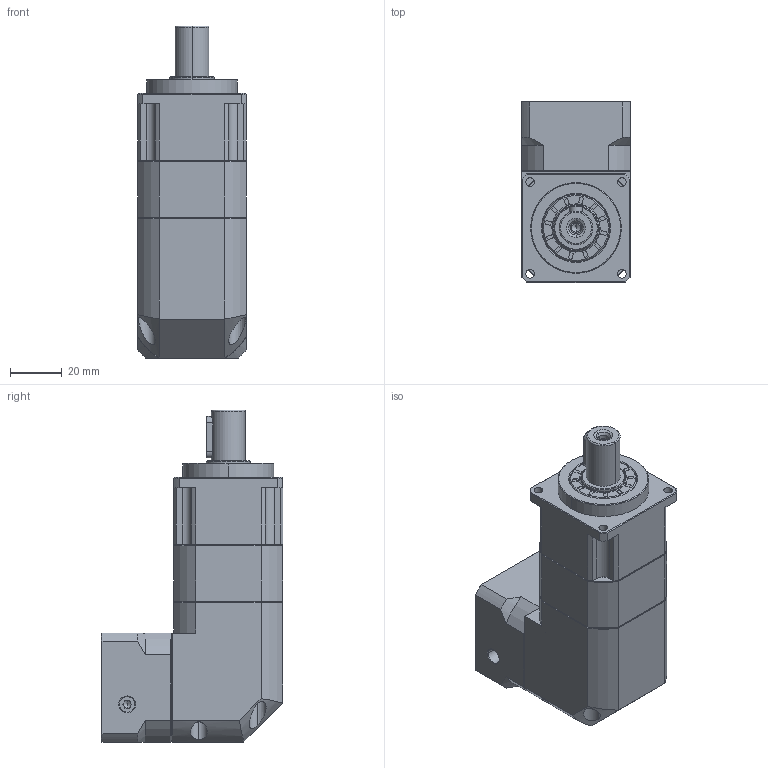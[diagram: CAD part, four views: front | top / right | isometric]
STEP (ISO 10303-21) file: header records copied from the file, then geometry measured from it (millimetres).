
FILE_DESCRIPTION (( 'STEP AP214' ), '1' );
FILE_NAME ('ZPBR042-D13-L2-P1-8-30-46-M4.step', '2024-04-11T05:19:56', ( 'Windows 蚚誧' ), ( 'Organization' ), 'SwSTEP 2.0', 'SolidWorks 2016', '' );
FILE_SCHEMA (( 'AUTOMOTIVE_DESIGN' ));
Length unit declared in the file: millimetre
Products named in the file (1): ZPBR042-D13-L2-P1-8-30-46-M4
Bounding box: 42 x 70 x 128 mm (x, y, z)
Volume: 186321.1 mm3; surface area: 51470.5 mm2
Topology: 7 solids, 16 shells, 1601 faces, 4143 edges, 2649 vertices
Faces by surface type: plane 643, bspline 353, cylinder 347, cone 256, torus 2
Entity records: 90649 total; most frequent: CARTESIAN_POINT 36783, ORIENTED_EDGE 8226, DIRECTION 6300, EDGE_CURVE 4113, VERTEX_POINT 2649, VECTOR 2336, LINE 2336, AXIS2_PLACEMENT_3D 1982
